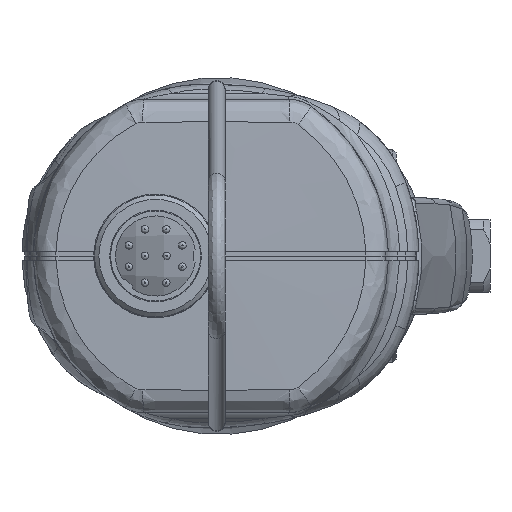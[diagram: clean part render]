
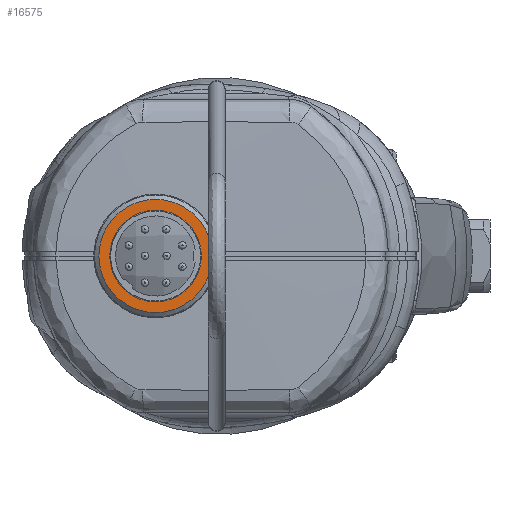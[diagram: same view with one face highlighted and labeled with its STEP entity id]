
A CAD part, front view. The second image highlights one B-rep face of the part: STEP entity #16575.
In plain terms, the highlighted planar face has unit normal (0, -1, 0).
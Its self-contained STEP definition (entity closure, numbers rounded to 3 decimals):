
#2125 = ORIENTED_EDGE ( 'NONE', *, *, #12228, .F. ) ;
#4608 = DIRECTION ( 'NONE',  ( 0., 0., 1. ) ) ;
#5887 = FACE_BOUND ( 'NONE', #38607, .T. ) ;
#6253 = FACE_OUTER_BOUND ( 'NONE', #54339, .T. ) ;
#12228 = EDGE_CURVE ( 'NONE', #23396, #23396, #16679, .T. ) ;
#13707 = CARTESIAN_POINT ( 'NONE',  ( -37.56, -190.321, -6. ) ) ;
#15541 = AXIS2_PLACEMENT_3D ( 'NONE', #48833, #53287, #42923 ) ;
#16575 = ADVANCED_FACE ( 'NONE', ( #6253, #5887 ), #28582, .F. ) ;
#16679 = CIRCLE ( 'NONE', #15541, 7.425 ) ;
#16830 = DIRECTION ( 'NONE',  ( 0., 1., 0. ) ) ;
#19278 = DIRECTION ( 'NONE',  ( 0., 1., 0. ) ) ;
#22212 = VERTEX_POINT ( 'NONE', #44918 ) ;
#22654 = CARTESIAN_POINT ( 'NONE',  ( -37.56, -190.321, 7.425 ) ) ;
#23396 = VERTEX_POINT ( 'NONE', #22654 ) ;
#28582 = PLANE ( 'NONE',  #46662 ) ;
#38607 = EDGE_LOOP ( 'NONE', ( #59094 ) ) ;
#42837 = AXIS2_PLACEMENT_3D ( 'NONE', #56257, #16830, #4608 ) ;
#42923 = DIRECTION ( 'NONE',  ( 0., 0., 1. ) ) ;
#44918 = CARTESIAN_POINT ( 'NONE',  ( -37.56, -190.321, 6. ) ) ;
#46662 = AXIS2_PLACEMENT_3D ( 'NONE', #13707, #19278, #70860 ) ;
#48833 = CARTESIAN_POINT ( 'NONE',  ( -37.56, -190.321, 0. ) ) ;
#53287 = DIRECTION ( 'NONE',  ( 0., 1., 0. ) ) ;
#54339 = EDGE_LOOP ( 'NONE', ( #2125 ) ) ;
#56257 = CARTESIAN_POINT ( 'NONE',  ( -37.56, -190.321, 0. ) ) ;
#59094 = ORIENTED_EDGE ( 'NONE', *, *, #65652, .T. ) ;
#59375 = CIRCLE ( 'NONE', #42837, 6. ) ;
#65652 = EDGE_CURVE ( 'NONE', #22212, #22212, #59375, .T. ) ;
#70860 = DIRECTION ( 'NONE',  ( 0., 0., 1. ) ) ;
